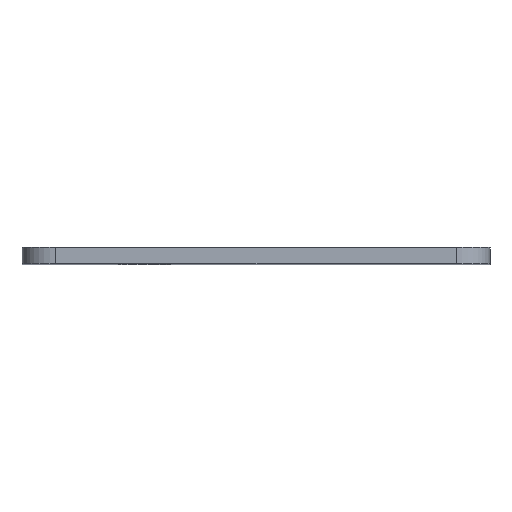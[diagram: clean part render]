
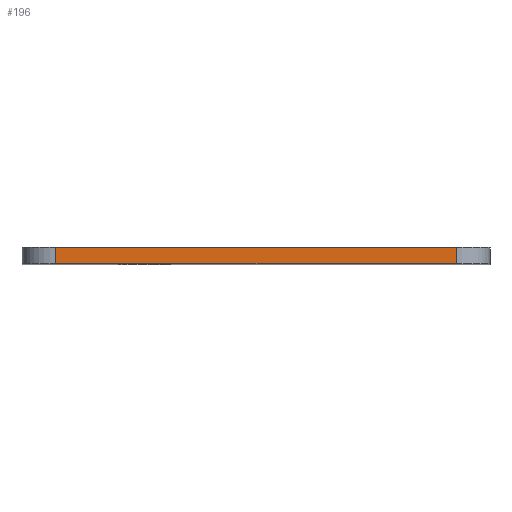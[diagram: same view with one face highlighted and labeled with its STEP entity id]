
A CAD part, top view. The second image highlights one B-rep face of the part: STEP entity #196.
In plain terms, the highlighted planar face has unit normal (0, 0, 1).
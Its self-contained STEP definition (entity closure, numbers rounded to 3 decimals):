
#19 = EDGE_CURVE ( 'NONE', #33, #233, #566, .T. ) ;
#33 = VERTEX_POINT ( 'NONE', #344 ) ;
#44 = CARTESIAN_POINT ( 'NONE',  ( 98.771, 0., 13.813 ) ) ;
#57 = LINE ( 'NONE', #644, #557 ) ;
#96 = FACE_OUTER_BOUND ( 'NONE', #693, .T. ) ;
#146 = DIRECTION ( 'NONE',  ( 1., 0., 0. ) ) ;
#196 = ADVANCED_FACE ( 'NONE', ( #96 ), #447, .T. ) ;
#217 = LINE ( 'NONE', #476, #715 ) ;
#232 = CARTESIAN_POINT ( 'NONE',  ( 50.896, 0., 13.813 ) ) ;
#233 = VERTEX_POINT ( 'NONE', #389 ) ;
#269 = VECTOR ( 'NONE', #631, 1000. ) ;
#280 = EDGE_CURVE ( 'NONE', #233, #295, #217, .T. ) ;
#294 = DIRECTION ( 'NONE',  ( 1., 0., 0. ) ) ;
#295 = VERTEX_POINT ( 'NONE', #592 ) ;
#305 = ORIENTED_EDGE ( 'NONE', *, *, #280, .F. ) ;
#332 = EDGE_CURVE ( 'NONE', #598, #295, #57, .T. ) ;
#344 = CARTESIAN_POINT ( 'NONE',  ( 50.896, 0., 13.813 ) ) ;
#389 = CARTESIAN_POINT ( 'NONE',  ( 50.896, 2., 13.813 ) ) ;
#445 = ORIENTED_EDGE ( 'NONE', *, *, #19, .F. ) ;
#446 = VECTOR ( 'NONE', #294, 1000. ) ;
#447 = PLANE ( 'NONE',  #586 ) ;
#455 = EDGE_CURVE ( 'NONE', #33, #598, #580, .T. ) ;
#476 = CARTESIAN_POINT ( 'NONE',  ( 50.896, 2., 13.813 ) ) ;
#506 = ORIENTED_EDGE ( 'NONE', *, *, #332, .T. ) ;
#549 = DIRECTION ( 'NONE',  ( 0., 1., 0. ) ) ;
#557 = VECTOR ( 'NONE', #549, 1000. ) ;
#562 = DIRECTION ( 'NONE',  ( 1., 0., 0. ) ) ;
#565 = CARTESIAN_POINT ( 'NONE',  ( 50.896, 0., 13.813 ) ) ;
#566 = LINE ( 'NONE', #565, #269 ) ;
#579 = ORIENTED_EDGE ( 'NONE', *, *, #455, .T. ) ;
#580 = LINE ( 'NONE', #697, #446 ) ;
#586 = AXIS2_PLACEMENT_3D ( 'NONE', #232, #621, #562 ) ;
#592 = CARTESIAN_POINT ( 'NONE',  ( 98.771, 2., 13.813 ) ) ;
#598 = VERTEX_POINT ( 'NONE', #44 ) ;
#621 = DIRECTION ( 'NONE',  ( 0., 0., 1. ) ) ;
#631 = DIRECTION ( 'NONE',  ( 0., 1., 0. ) ) ;
#644 = CARTESIAN_POINT ( 'NONE',  ( 98.771, 0., 13.813 ) ) ;
#693 = EDGE_LOOP ( 'NONE', ( #305, #445, #579, #506 ) ) ;
#697 = CARTESIAN_POINT ( 'NONE',  ( 50.896, 0., 13.813 ) ) ;
#715 = VECTOR ( 'NONE', #146, 1000. ) ;
